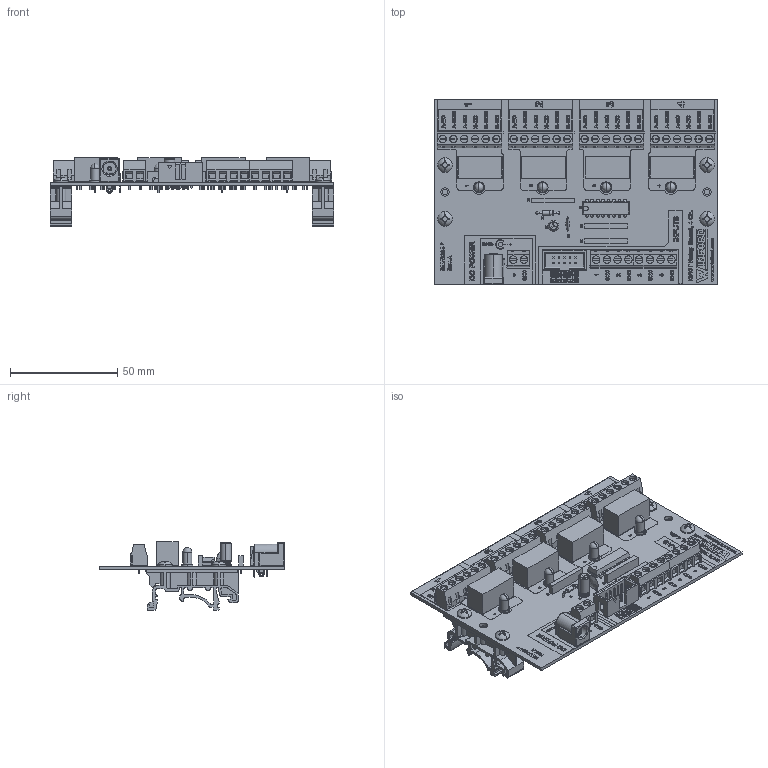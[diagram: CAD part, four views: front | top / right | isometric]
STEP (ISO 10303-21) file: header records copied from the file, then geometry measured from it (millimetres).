
FILE_DESCRIPTION (( 'STEP AP214' ), '1' );
FILE_NAME ('rlyd304-xxv-din_rev_a.step', '2022-08-09T14:42:24', ( '' ), ( '' ), 'SwSTEP 2.0', 'SolidWorks 2018', '' );
FILE_SCHEMA (( 'AUTOMOTIVE_DESIGN' ));
Length unit declared in the file: inch
Products named in the file (4): rlyd304_Board; rlyd304-xxv-din_rev_a; Screw_SCSMPP-6-0.375_90184A127; dinm01
Assembly tree (7 placements, depth 2):
  rlyd304-xxv-din_rev_a
    rlyd304_Board
    dinm01  x2
    Screw_SCSMPP-6-0.375_90184A127  x4
Bounding box: 132.08 x 86.36 x 32 mm (x, y, z)
Volume: 46920.4 mm3; surface area: 57850.5 mm2
Topology: 282 solids, 282 shells, 6789 faces, 17755 edges, 11721 vertices
Faces by surface type: plane 4524, bspline 1202, cylinder 938, torus 60, cone 36, sphere 29
Entity records: 302410 total; most frequent: CARTESIAN_POINT 107427, ORIENTED_EDGE 32956, DIRECTION 24725, EDGE_CURVE 16478, VECTOR 11543, LINE 11543, VERTEX_POINT 10884, EDGE_LOOP 7088
